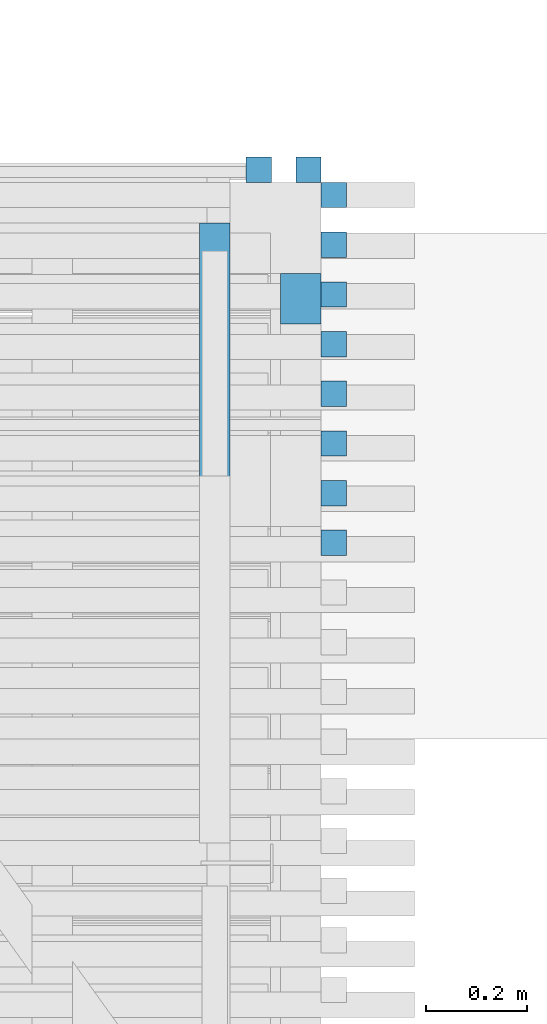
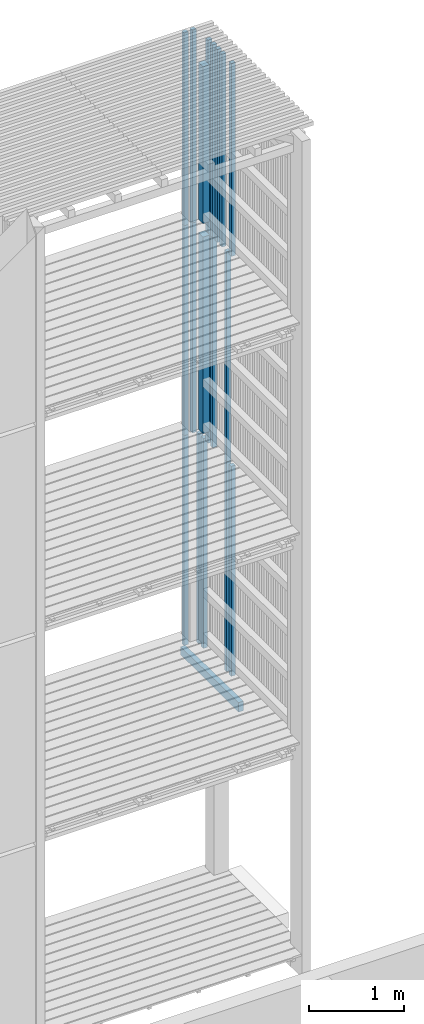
# One storey, part 132 of 182: 20 beams.
"""IFC2X3 building model written with IfcOpenShell, lengths in metres."""

from ifc_helpers import new_model, si_unit, frame, origin, place, context, project, spatial, faceted_brep, element, save


model = new_model("IFC2X3")

# Units and contexts
model_context = context("Model", 3, precision=1e-06, world=origin())
ifc_project = project(units=[si_unit("LENGTHUNIT", "METRE"), si_unit("PLANEANGLEUNIT", "RADIAN")], contexts=[model_context])

# Site, building, storey
site = spatial("IfcSite", under=ifc_project, CompositionType="ELEMENT")
building = spatial("IfcBuilding", under=site, CompositionType="ELEMENT")
storey = spatial("IfcBuildingStorey", under=building, Name="vs", CompositionType="ELEMENT", Elevation=-0.85)

# Beams
placement = place(None, origin())
beam_1_placement = place(placement, frame((56.231818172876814, 7.295077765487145, 2.575000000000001), z_axis=(0.0, -1.0, 0.0), x_axis=(0.0, 0.0, 1.0)))
element("IfcBeam", 1, at=beam_1_placement, inside=storey, Name="Bardage", context=model_context, shape_type="Brep", body=[
    faceted_brep([(2.699961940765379, -0.024999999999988, 0.025000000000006), (2.699961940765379, -0.025000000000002, -0.024999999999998), (2.699961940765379, 0.024999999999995, -0.025000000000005), (2.699961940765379, 0.025000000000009, 0.024999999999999), (0.0, -0.024999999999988, 0.025000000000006), (2.699961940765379, -0.024999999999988, 0.025000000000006), (2.699961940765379, 0.025000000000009, 0.024999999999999), (0.0, 0.025000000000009, 0.024999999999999), (0.0, -0.024999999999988, 0.025000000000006), (0.0, 0.025000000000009, 0.024999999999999), (0.0, 0.024999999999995, -0.025000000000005), (0.0, -0.025000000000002, -0.024999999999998), (0.0, -0.024999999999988, 0.025000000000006), (0.0, -0.025000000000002, -0.024999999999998), (2.699961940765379, -0.025000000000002, -0.024999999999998), (2.699961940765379, -0.024999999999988, 0.025000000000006), (0.0, -0.025000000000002, -0.024999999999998), (0.0, 0.024999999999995, -0.025000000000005), (2.699961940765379, 0.024999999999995, -0.025000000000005), (2.699961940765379, -0.025000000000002, -0.024999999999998), (0.0, 0.024999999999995, -0.025000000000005), (0.0, 0.025000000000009, 0.024999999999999), (2.699961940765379, 0.025000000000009, 0.024999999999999), (2.699961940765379, 0.024999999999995, -0.025000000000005)], [[[0, 1, 2, 3]], [[4, 5, 6, 7]], [[8, 9, 10, 11]], [[12, 13, 14, 15]], [[16, 17, 18, 19]], [[20, 21, 22, 23]]]),
])
beam_2_placement = place(placement, frame((56.37999999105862, 6.655986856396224, 2.575000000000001), z_axis=(-1.0, 0.0, 0.0), x_axis=(0.0, 0.0, 1.0)))
element("IfcBeam", 2, at=beam_2_placement, inside=storey, Name="Bardage", context=model_context, shape_type="Brep", body=[
    faceted_brep([(0.0, -0.025000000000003, 0.024999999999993), (0.0, 0.025000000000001, 0.024999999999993), (0.0, 0.025000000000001, -0.025000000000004), (0.0, -0.025000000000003, -0.025000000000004), (2.699961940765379, 0.025000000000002, -0.025000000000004), (2.699961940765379, 0.025000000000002, 0.024999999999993), (2.699961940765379, -0.024999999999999, 0.024999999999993), (2.699961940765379, -0.024999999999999, -0.025000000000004), (0.0, -0.025000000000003, -0.025000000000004), (0.0, 0.025000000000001, -0.025000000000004), (2.699961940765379, 0.025000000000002, -0.025000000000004), (2.699961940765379, -0.024999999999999, -0.025000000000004), (2.699961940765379, 0.025000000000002, -0.025000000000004), (0.0, 0.025000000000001, -0.025000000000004), (0.0, 0.025000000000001, 0.024999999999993), (2.699961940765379, 0.025000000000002, 0.024999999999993), (2.699961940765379, 0.025000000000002, 0.024999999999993), (0.0, 0.025000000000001, 0.024999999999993), (0.0, -0.025000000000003, 0.024999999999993), (2.699961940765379, -0.024999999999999, 0.024999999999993), (2.699961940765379, -0.024999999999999, 0.024999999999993), (0.0, -0.025000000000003, 0.024999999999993), (0.0, -0.025000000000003, -0.025000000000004), (2.699961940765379, -0.024999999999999, -0.025000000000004)], [[[0, 1, 2, 3]], [[4, 5, 6, 7]], [[8, 9, 10, 11]], [[12, 13, 14, 15]], [[16, 17, 18, 19]], [[20, 21, 22, 23]]]),
])
beam_3_placement = place(placement, frame((56.37999999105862, 6.950532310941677, 7.974999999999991), z_axis=(-1.0, 0.0, 0.0), x_axis=(0.0, 0.0, 1.0)))
element("IfcBeam", 3, at=beam_3_placement, inside=storey, Name="Bardage", context=model_context, shape_type="Brep", body=[
    faceted_brep([(2.479999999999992, -0.025000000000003, 0.024999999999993), (2.479999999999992, -0.025000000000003, -0.025000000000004), (2.479999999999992, 0.024999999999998, -0.025000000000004), (2.479999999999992, 0.024999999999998, 0.024999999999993), (0.0, 0.024999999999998, 0.024999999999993), (0.0, -0.025000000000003, 0.024999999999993), (2.479999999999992, -0.025000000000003, 0.024999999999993), (2.479999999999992, 0.024999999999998, 0.024999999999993), (0.0, -0.025000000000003, 0.024999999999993), (0.0, 0.024999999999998, 0.024999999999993), (0.0, 0.024999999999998, -0.025000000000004), (0.0, -0.025000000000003, -0.025000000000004), (0.0, 0.024999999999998, -0.025000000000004), (0.0, 0.024999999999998, 0.024999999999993), (2.479999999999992, 0.024999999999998, 0.024999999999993), (2.479999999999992, 0.024999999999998, -0.025000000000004), (0.0, -0.025000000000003, -0.025000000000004), (0.0, 0.024999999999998, -0.025000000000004), (2.479999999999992, 0.024999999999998, -0.025000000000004), (2.479999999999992, -0.025000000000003, -0.025000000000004), (2.479999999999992, -0.025000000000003, 0.024999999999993), (0.0, -0.025000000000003, 0.024999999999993), (0.0, -0.025000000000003, -0.025000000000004), (2.479999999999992, -0.025000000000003, -0.025000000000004)], [[[0, 1, 2, 3]], [[4, 5, 6, 7]], [[8, 9, 10, 11]], [[12, 13, 14, 15]], [[16, 17, 18, 19]], [[20, 21, 22, 23]]]),
])
beam_4_placement = place(placement, frame((56.314999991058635, 7.040077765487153, 5.446999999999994), z_axis=(0.0, -1.0, 0.0), x_axis=(0.0, 0.0, 1.0)))
element("IfcBeam", 4, at=beam_4_placement, inside=storey, Name="Support bardage", context=model_context, shape_type="Brep", body=[
    faceted_brep([(2.527999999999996, -0.039999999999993, 0.050000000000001), (2.527999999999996, -0.039999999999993, -0.05), (2.527999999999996, 0.04000000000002, -0.05), (2.527999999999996, 0.04000000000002, 0.050000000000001), (0.0, 0.04000000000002, 0.050000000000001), (0.0, -0.039999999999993, 0.050000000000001), (2.527999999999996, -0.039999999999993, 0.050000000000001), (2.527999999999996, 0.04000000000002, 0.050000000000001), (0.0, -0.039999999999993, 0.050000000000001), (0.0, 0.04000000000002, 0.050000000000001), (0.0, 0.04000000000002, -0.05), (0.0, -0.039999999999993, -0.05), (2.527999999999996, -0.039999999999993, 0.050000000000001), (0.0, -0.039999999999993, 0.050000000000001), (0.0, -0.039999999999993, -0.05), (2.527999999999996, -0.039999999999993, -0.05), (2.527999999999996, -0.039999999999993, -0.05), (0.0, -0.039999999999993, -0.05), (0.0, 0.04000000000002, -0.05), (2.527999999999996, 0.04000000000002, -0.05), (2.527999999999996, 0.04000000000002, -0.05), (0.0, 0.04000000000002, -0.05), (0.0, 0.04000000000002, 0.050000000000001), (2.527999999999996, 0.04000000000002, 0.050000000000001)], [[[0, 1, 2, 3]], [[4, 5, 6, 7]], [[8, 9, 10, 11]], [[12, 13, 14, 15]], [[16, 17, 18, 19]], [[20, 21, 22, 23]]]),
])
beam_5_placement = place(placement, frame((56.37999999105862, 6.754168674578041, 7.974999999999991), z_axis=(-1.0, 0.0, 0.0), x_axis=(0.0, 0.0, 1.0)))
element("IfcBeam", 5, at=beam_5_placement, inside=storey, Name="Bardage", context=model_context, shape_type="Brep", body=[
    faceted_brep([(2.479999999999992, -0.024999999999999, 0.024999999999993), (2.479999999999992, -0.024999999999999, -0.025000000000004), (2.479999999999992, 0.024999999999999, -0.025000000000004), (2.479999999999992, 0.024999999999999, 0.024999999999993), (0.0, 0.024999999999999, 0.024999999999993), (0.0, -0.024999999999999, 0.024999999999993), (2.479999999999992, -0.024999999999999, 0.024999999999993), (2.479999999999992, 0.024999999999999, 0.024999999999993), (0.0, -0.024999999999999, 0.024999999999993), (0.0, 0.024999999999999, 0.024999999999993), (0.0, 0.024999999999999, -0.025000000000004), (0.0, -0.024999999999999, -0.025000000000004), (0.0, 0.024999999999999, -0.025000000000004), (0.0, 0.024999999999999, 0.024999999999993), (2.479999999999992, 0.024999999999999, 0.024999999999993), (2.479999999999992, 0.024999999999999, -0.025000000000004), (0.0, -0.024999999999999, -0.025000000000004), (0.0, 0.024999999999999, -0.025000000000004), (2.479999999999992, 0.024999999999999, -0.025000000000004), (2.479999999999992, -0.024999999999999, -0.025000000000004), (2.479999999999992, -0.024999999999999, 0.024999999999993), (0.0, -0.024999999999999, 0.024999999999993), (0.0, -0.024999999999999, -0.025000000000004), (2.479999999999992, -0.024999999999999, -0.025000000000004)], [[[0, 1, 2, 3]], [[4, 5, 6, 7]], [[8, 9, 10, 11]], [[12, 13, 14, 15]], [[16, 17, 18, 19]], [[20, 21, 22, 23]]]),
])
beam_6_placement = place(placement, frame((56.37999999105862, 6.655986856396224, 5.274999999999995), z_axis=(-1.0, 0.0, 0.0), x_axis=(0.0, 0.0, 1.0)))
element("IfcBeam", 6, at=beam_6_placement, inside=storey, Name="Bardage", context=model_context, shape_type="Brep", body=[
    faceted_brep([(1e-15, -0.025000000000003, 0.024999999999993), (1e-15, 0.025000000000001, 0.024999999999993), (1e-15, 0.025000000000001, -0.025000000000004), (1e-15, -0.025000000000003, -0.025000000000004), (2.699999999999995, -0.025000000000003, -0.025000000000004), (2.699999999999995, 0.025000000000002, -0.025000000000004), (2.699999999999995, 0.025000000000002, 0.024999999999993), (2.699999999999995, -0.025000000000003, 0.024999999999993), (1e-15, -0.025000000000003, 0.024999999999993), (1e-15, -0.025000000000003, -0.025000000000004), (2.699999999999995, -0.025000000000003, -0.025000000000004), (2.699999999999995, -0.025000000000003, 0.024999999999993), (2.699999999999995, -0.025000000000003, -0.025000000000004), (1e-15, -0.025000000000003, -0.025000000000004), (1e-15, 0.025000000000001, -0.025000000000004), (2.699999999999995, 0.025000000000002, -0.025000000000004), (2.699999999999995, 0.025000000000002, -0.025000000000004), (1e-15, 0.025000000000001, -0.025000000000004), (1e-15, 0.025000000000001, 0.024999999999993), (2.699999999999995, 0.025000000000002, 0.024999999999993), (2.699999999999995, 0.025000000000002, 0.024999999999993), (1e-15, 0.025000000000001, 0.024999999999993), (1e-15, -0.025000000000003, 0.024999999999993), (2.699999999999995, -0.025000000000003, 0.024999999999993)], [[[0, 1, 2, 3]], [[4, 5, 6, 7]], [[8, 9, 10, 11]], [[12, 13, 14, 15]], [[16, 17, 18, 19]], [[20, 21, 22, 23]]]),
])
beam_7_placement = place(placement, frame((56.37999999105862, 7.048714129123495, 5.274999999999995), z_axis=(-1.0, 0.0, 0.0), x_axis=(0.0, 0.0, 1.0)))
element("IfcBeam", 7, at=beam_7_placement, inside=storey, Name="Bardage", context=model_context, shape_type="Brep", body=[
    faceted_brep([(1e-15, -0.025000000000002, 0.024999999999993), (1e-15, 0.024999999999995, 0.024999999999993), (1e-15, 0.024999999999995, -0.025000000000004), (1e-15, -0.025000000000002, -0.025000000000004), (2.699999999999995, -0.025000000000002, -0.025000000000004), (2.699999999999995, 0.024999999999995, -0.025000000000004), (2.699999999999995, 0.024999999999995, 0.024999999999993), (2.699999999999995, -0.025000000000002, 0.024999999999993), (1e-15, -0.025000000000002, 0.024999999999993), (1e-15, -0.025000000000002, -0.025000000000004), (2.699999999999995, -0.025000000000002, -0.025000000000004), (2.699999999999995, -0.025000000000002, 0.024999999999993), (2.699999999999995, -0.025000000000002, -0.025000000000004), (1e-15, -0.025000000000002, -0.025000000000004), (1e-15, 0.024999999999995, -0.025000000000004), (2.699999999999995, 0.024999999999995, -0.025000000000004), (2.699999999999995, 0.024999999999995, -0.025000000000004), (1e-15, 0.024999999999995, -0.025000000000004), (1e-15, 0.024999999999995, 0.024999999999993), (2.699999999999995, 0.024999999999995, 0.024999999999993), (2.699999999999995, 0.024999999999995, 0.024999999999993), (1e-15, 0.024999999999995, 0.024999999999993), (1e-15, -0.025000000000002, 0.024999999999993), (2.699999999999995, -0.025000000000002, 0.024999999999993)], [[[0, 1, 2, 3]], [[4, 5, 6, 7]], [[8, 9, 10, 11]], [[12, 13, 14, 15]], [[16, 17, 18, 19]], [[20, 21, 22, 23]]]),
])
beam_8_placement = place(placement, frame((56.37999999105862, 6.852350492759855, 7.974999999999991), z_axis=(-1.0, 0.0, 0.0), x_axis=(0.0, 0.0, 1.0)))
element("IfcBeam", 8, at=beam_8_placement, inside=storey, Name="Bardage", context=model_context, shape_type="Brep", body=[
    faceted_brep([(2.479999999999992, -0.024999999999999, 0.024999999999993), (2.479999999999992, -0.024999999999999, -0.025000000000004), (2.479999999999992, 0.025000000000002, -0.025000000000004), (2.479999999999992, 0.025000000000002, 0.024999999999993), (0.0, 0.025000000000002, 0.024999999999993), (0.0, -0.024999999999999, 0.024999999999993), (2.479999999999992, -0.024999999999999, 0.024999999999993), (2.479999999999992, 0.025000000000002, 0.024999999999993), (0.0, -0.024999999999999, 0.024999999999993), (0.0, 0.025000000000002, 0.024999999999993), (0.0, 0.025000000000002, -0.025000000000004), (0.0, -0.024999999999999, -0.025000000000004), (0.0, 0.025000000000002, -0.025000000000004), (0.0, 0.025000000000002, 0.024999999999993), (2.479999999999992, 0.025000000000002, 0.024999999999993), (2.479999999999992, 0.025000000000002, -0.025000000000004), (0.0, -0.024999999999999, -0.025000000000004), (0.0, 0.025000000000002, -0.025000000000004), (2.479999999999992, 0.025000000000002, -0.025000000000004), (2.479999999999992, -0.024999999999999, -0.025000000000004), (2.479999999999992, -0.024999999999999, 0.024999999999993), (0.0, -0.024999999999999, 0.024999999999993), (0.0, -0.024999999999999, -0.025000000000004), (2.479999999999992, -0.024999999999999, -0.025000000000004)], [[[0, 1, 2, 3]], [[4, 5, 6, 7]], [[8, 9, 10, 11]], [[12, 13, 14, 15]], [[16, 17, 18, 19]], [[20, 21, 22, 23]]]),
])
beam_9_placement = place(placement, frame((56.37999999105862, 6.557805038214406, 7.974999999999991), z_axis=(-1.0, 0.0, 0.0), x_axis=(0.0, 0.0, 1.0)))
element("IfcBeam", 9, at=beam_9_placement, inside=storey, Name="Bardage", context=model_context, shape_type="Brep", body=[
    faceted_brep([(2.479999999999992, -0.024999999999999, 0.024999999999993), (2.479999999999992, -0.024999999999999, -0.025000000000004), (2.479999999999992, 0.025000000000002, -0.025000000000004), (2.479999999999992, 0.025000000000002, 0.024999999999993), (0.0, 0.024999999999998, 0.024999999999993), (0.0, -0.024999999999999, 0.024999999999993), (2.479999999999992, -0.024999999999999, 0.024999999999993), (2.479999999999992, 0.025000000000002, 0.024999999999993), (0.0, -0.024999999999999, 0.024999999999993), (0.0, 0.024999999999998, 0.024999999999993), (0.0, 0.024999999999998, -0.025000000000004), (0.0, -0.024999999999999, -0.025000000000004), (0.0, 0.024999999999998, -0.025000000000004), (0.0, 0.024999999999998, 0.024999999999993), (2.479999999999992, 0.025000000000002, 0.024999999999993), (2.479999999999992, 0.025000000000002, -0.025000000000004), (0.0, -0.024999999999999, -0.025000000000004), (0.0, 0.024999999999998, -0.025000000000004), (2.479999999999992, 0.025000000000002, -0.025000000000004), (2.479999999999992, -0.024999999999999, -0.025000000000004), (2.479999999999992, -0.024999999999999, 0.024999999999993), (0.0, -0.024999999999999, 0.024999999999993), (0.0, -0.024999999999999, -0.025000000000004), (2.479999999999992, -0.024999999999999, -0.025000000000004)], [[[0, 1, 2, 3]], [[4, 5, 6, 7]], [[8, 9, 10, 11]], [[12, 13, 14, 15]], [[16, 17, 18, 19]], [[20, 21, 22, 23]]]),
])
beam_10_placement = place(placement, frame((56.37999999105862, 6.557805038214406, 2.575000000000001), z_axis=(-1.0, 0.0, 0.0), x_axis=(0.0, 0.0, 1.0)))
element("IfcBeam", 10, at=beam_10_placement, inside=storey, Name="Bardage", context=model_context, shape_type="Brep", body=[
    faceted_brep([(0.0, -0.024999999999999, 0.024999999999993), (0.0, 0.025000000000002, 0.024999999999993), (0.0, 0.025000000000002, -0.025000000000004), (0.0, -0.024999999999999, -0.025000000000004), (2.699961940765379, 0.025000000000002, -0.025000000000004), (2.699961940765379, 0.025000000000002, 0.024999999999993), (2.699961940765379, -0.024999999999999, 0.024999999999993), (2.699961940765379, -0.024999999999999, -0.025000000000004), (0.0, -0.024999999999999, -0.025000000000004), (0.0, 0.025000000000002, -0.025000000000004), (2.699961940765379, 0.025000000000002, -0.025000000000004), (2.699961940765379, -0.024999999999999, -0.025000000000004), (2.699961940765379, 0.025000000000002, -0.025000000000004), (0.0, 0.025000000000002, -0.025000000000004), (0.0, 0.025000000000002, 0.024999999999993), (2.699961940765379, 0.025000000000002, 0.024999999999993), (2.699961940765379, 0.025000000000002, 0.024999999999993), (0.0, 0.025000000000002, 0.024999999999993), (0.0, -0.024999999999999, 0.024999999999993), (2.699961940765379, -0.024999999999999, 0.024999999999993), (2.699961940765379, -0.024999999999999, 0.024999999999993), (0.0, -0.024999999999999, 0.024999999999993), (0.0, -0.024999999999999, -0.025000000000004), (2.699961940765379, -0.024999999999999, -0.025000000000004)], [[[0, 1, 2, 3]], [[4, 5, 6, 7]], [[8, 9, 10, 11]], [[12, 13, 14, 15]], [[16, 17, 18, 19]], [[20, 21, 22, 23]]]),
])
beam_11_placement = place(placement, frame((56.14499999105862, 5.965077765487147, 2.604249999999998), z_axis=(0.0, 0.0, 1.0), x_axis=(0.0, 1.0, 0.0)))
element("IfcBeam", 11, at=beam_11_placement, inside=storey, Name="Solive", context=model_context, shape_type="Brep", body=[
    faceted_brep([(0.0, -0.03, 0.06185), (0.0, -0.03, -0.06185), (1.225000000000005, -0.03, -0.06185), (1.225000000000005, -0.03, 0.03735), (0.0, -0.03, -0.06185), (0.0, -0.03, 0.06185), (0.0, 0.029999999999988, 0.06185), (0.0, 0.029999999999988, -0.06185), (1.225000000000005, -0.03, -0.06185), (0.0, -0.03, -0.06185), (0.0, 0.029999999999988, -0.06185), (1.225000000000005, 0.029999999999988, -0.06185), (1.225000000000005, 0.029999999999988, 0.03735), (1.225000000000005, 0.029999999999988, -0.06185), (0.0, 0.029999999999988, -0.06185), (0.0, 0.029999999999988, 0.06185), (1.225000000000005, -0.03, 0.03735), (1.225000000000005, -0.03, -0.06185), (1.225000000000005, 0.029999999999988, -0.06185), (1.225000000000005, 0.029999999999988, 0.03735), (1.225000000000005, -0.03, 0.03735), (1.225000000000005, 0.029999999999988, 0.03735), (0.0, 0.029999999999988, 0.06185), (0.0, -0.03, 0.06185)], [[[0, 1, 2, 3]], [[4, 5, 6, 7]], [[8, 9, 10, 11]], [[12, 13, 14, 15]], [[16, 17, 18, 19]], [[20, 21, 22, 23]]]),
])
beam_12_placement = place(placement, frame((56.314999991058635, 7.040077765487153, 8.146999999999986), z_axis=(0.0, -1.0, 0.0), x_axis=(0.0, 0.0, 1.0)))
element("IfcBeam", 12, at=beam_12_placement, inside=storey, Name="Support bardage", context=model_context, shape_type="Brep", body=[
    faceted_brep([(2.017999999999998, -0.039999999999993, -0.05), (2.017999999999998, 0.04000000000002, -0.05), (2.017999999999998, 0.04000000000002, 0.050000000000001), (2.017999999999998, -0.039999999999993, 0.050000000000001), (1e-15, -0.039999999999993, 0.050000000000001), (1e-15, 0.04000000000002, 0.050000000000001), (1e-15, 0.04000000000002, -0.05), (1e-15, -0.039999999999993, -0.05), (1e-15, -0.039999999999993, 0.050000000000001), (1e-15, -0.039999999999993, -0.05), (2.017999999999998, -0.039999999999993, -0.05), (2.017999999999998, -0.039999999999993, 0.050000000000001), (1e-15, 0.04000000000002, 0.050000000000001), (1e-15, -0.039999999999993, 0.050000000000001), (2.017999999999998, -0.039999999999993, 0.050000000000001), (2.017999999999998, 0.04000000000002, 0.050000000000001), (1e-15, 0.04000000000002, -0.05), (1e-15, 0.04000000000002, 0.050000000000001), (2.017999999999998, 0.04000000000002, 0.050000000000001), (2.017999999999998, 0.04000000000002, -0.05), (1e-15, -0.039999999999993, -0.05), (1e-15, 0.04000000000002, -0.05), (2.017999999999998, 0.04000000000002, -0.05), (2.017999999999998, -0.039999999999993, -0.05)], [[[0, 1, 2, 3]], [[4, 5, 6, 7]], [[8, 9, 10, 11]], [[12, 13, 14, 15]], [[16, 17, 18, 19]], [[20, 21, 22, 23]]]),
])
beam_13_placement = place(placement, frame((56.231818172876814, 7.295077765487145, 7.974999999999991), z_axis=(0.0, -1.0, 0.0), x_axis=(0.0, 0.0, 1.0)))
element("IfcBeam", 13, at=beam_13_placement, inside=storey, Name="Bardage", context=model_context, shape_type="Brep", body=[
    faceted_brep([(0.0, -0.024999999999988, 0.025000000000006), (0.0, 0.025000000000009, 0.024999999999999), (0.0, 0.024999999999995, -0.025000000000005), (0.0, -0.025000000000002, -0.024999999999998), (2.479999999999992, 0.024999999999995, -0.025000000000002), (2.479999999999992, 0.025000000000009, 0.024999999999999), (2.479999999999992, -0.024999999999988, 0.025000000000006), (2.479999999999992, -0.025000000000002, -0.024999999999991), (0.0, 0.025000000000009, 0.024999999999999), (0.0, -0.024999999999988, 0.025000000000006), (2.479999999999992, -0.024999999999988, 0.025000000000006), (2.479999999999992, 0.025000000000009, 0.024999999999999), (0.0, 0.024999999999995, -0.025000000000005), (0.0, 0.025000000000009, 0.024999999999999), (2.479999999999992, 0.025000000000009, 0.024999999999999), (2.479999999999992, 0.024999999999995, -0.025000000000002), (0.0, -0.025000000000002, -0.024999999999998), (0.0, 0.024999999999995, -0.025000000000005), (2.479999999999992, 0.024999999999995, -0.025000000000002), (2.479999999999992, -0.025000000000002, -0.024999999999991), (2.479999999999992, -0.024999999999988, 0.025000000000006), (0.0, -0.024999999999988, 0.025000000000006), (0.0, -0.025000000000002, -0.024999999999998), (2.479999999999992, -0.025000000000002, -0.024999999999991)], [[[0, 1, 2, 3]], [[4, 5, 6, 7]], [[8, 9, 10, 11]], [[12, 13, 14, 15]], [[16, 17, 18, 19]], [[20, 21, 22, 23]]]),
])
beam_14_placement = place(placement, frame((56.32999999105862, 7.295077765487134, 7.974999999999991), z_axis=(0.0, -1.0, 0.0), x_axis=(0.0, 0.0, 1.0)))
element("IfcBeam", 14, at=beam_14_placement, inside=storey, Name="Bardage", context=model_context, shape_type="Brep", body=[
    faceted_brep([(0.0, -0.025000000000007, 0.025000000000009), (0.0, 0.025000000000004, 0.025000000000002), (0.0, 0.02499999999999, -0.025000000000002), (0.0, -0.025000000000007, -0.024999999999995), (2.479999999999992, 0.02499999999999, -0.024999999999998), (2.479999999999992, 0.025000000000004, 0.024999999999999), (2.479999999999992, -0.025000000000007, 0.025000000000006), (2.479999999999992, -0.025000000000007, -0.024999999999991), (0.0, 0.025000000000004, 0.025000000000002), (0.0, -0.025000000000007, 0.025000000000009), (2.479999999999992, -0.025000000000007, 0.025000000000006), (2.479999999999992, 0.025000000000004, 0.024999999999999), (0.0, 0.02499999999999, -0.025000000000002), (0.0, 0.025000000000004, 0.025000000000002), (2.479999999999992, 0.025000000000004, 0.024999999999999), (2.479999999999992, 0.02499999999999, -0.024999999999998), (0.0, -0.025000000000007, -0.024999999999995), (0.0, 0.02499999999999, -0.025000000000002), (2.479999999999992, 0.02499999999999, -0.024999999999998), (2.479999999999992, -0.025000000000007, -0.024999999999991), (2.479999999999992, -0.025000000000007, 0.025000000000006), (0.0, -0.025000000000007, 0.025000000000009), (0.0, -0.025000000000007, -0.024999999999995), (2.479999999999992, -0.025000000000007, -0.024999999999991)], [[[0, 1, 2, 3]], [[4, 5, 6, 7]], [[8, 9, 10, 11]], [[12, 13, 14, 15]], [[16, 17, 18, 19]], [[20, 21, 22, 23]]]),
])
beam_15_placement = place(placement, frame((56.231818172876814, 7.295077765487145, 5.274999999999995), z_axis=(0.0, -1.0, 0.0), x_axis=(0.0, 0.0, 1.0)))
element("IfcBeam", 15, at=beam_15_placement, inside=storey, Name="Bardage", context=model_context, shape_type="Brep", body=[
    faceted_brep([(2.699999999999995, 0.025000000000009, 0.024999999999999), (2.699999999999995, -0.024999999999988, 0.025000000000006), (2.699999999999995, -0.025000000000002, -0.024999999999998), (2.699999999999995, 0.024999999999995, -0.025000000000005), (1e-15, 0.025000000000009, 0.024999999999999), (2.699999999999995, 0.025000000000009, 0.024999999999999), (2.699999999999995, 0.024999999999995, -0.025000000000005), (1e-15, 0.024999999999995, -0.025000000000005), (1e-15, -0.024999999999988, 0.025000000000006), (1e-15, 0.025000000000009, 0.024999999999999), (1e-15, 0.024999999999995, -0.025000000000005), (1e-15, -0.025000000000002, -0.024999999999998), (1e-15, 0.025000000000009, 0.024999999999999), (1e-15, -0.024999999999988, 0.025000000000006), (2.699999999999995, -0.024999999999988, 0.025000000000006), (2.699999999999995, 0.025000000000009, 0.024999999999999), (1e-15, -0.024999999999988, 0.025000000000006), (1e-15, -0.025000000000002, -0.024999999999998), (2.699999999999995, -0.025000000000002, -0.024999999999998), (2.699999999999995, -0.024999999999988, 0.025000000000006), (1e-15, -0.025000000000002, -0.024999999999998), (1e-15, 0.024999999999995, -0.025000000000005), (2.699999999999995, 0.024999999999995, -0.025000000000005), (2.699999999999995, -0.025000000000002, -0.024999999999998)], [[[0, 1, 2, 3]], [[4, 5, 6, 7]], [[8, 9, 10, 11]], [[12, 13, 14, 15]], [[16, 17, 18, 19]], [[20, 21, 22, 23]]]),
])
beam_16_placement = place(placement, frame((56.37999999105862, 7.24507776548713, 2.575000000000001), z_axis=(-1.0, 0.0, 0.0), x_axis=(0.0, 0.0, 1.0)))
element("IfcBeam", 16, at=beam_16_placement, inside=storey, Name="Bardage", context=model_context, shape_type="Brep", body=[
    faceted_brep([(0.0, -0.025000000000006, 0.024999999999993), (0.0, 0.024999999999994, 0.024999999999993), (0.0, 0.024999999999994, -0.025000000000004), (0.0, -0.025000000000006, -0.025000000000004), (2.699961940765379, 0.024999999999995, -0.025000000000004), (2.699961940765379, 0.024999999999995, 0.024999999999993), (2.699961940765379, -0.025000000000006, 0.024999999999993), (2.699961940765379, -0.025000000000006, -0.025000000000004), (0.0, -0.025000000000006, -0.025000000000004), (0.0, 0.024999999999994, -0.025000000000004), (2.699961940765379, 0.024999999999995, -0.025000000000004), (2.699961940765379, -0.025000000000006, -0.025000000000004), (2.699961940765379, 0.024999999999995, -0.025000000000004), (0.0, 0.024999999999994, -0.025000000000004), (0.0, 0.024999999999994, 0.024999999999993), (2.699961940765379, 0.024999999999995, 0.024999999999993), (2.699961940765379, 0.024999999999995, 0.024999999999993), (0.0, 0.024999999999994, 0.024999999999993), (0.0, -0.025000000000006, 0.024999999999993), (2.699961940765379, -0.025000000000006, 0.024999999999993), (2.699961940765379, -0.025000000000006, 0.024999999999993), (0.0, -0.025000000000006, 0.024999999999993), (0.0, -0.025000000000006, -0.025000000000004), (2.699961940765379, -0.025000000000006, -0.025000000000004)], [[[0, 1, 2, 3]], [[4, 5, 6, 7]], [[8, 9, 10, 11]], [[12, 13, 14, 15]], [[16, 17, 18, 19]], [[20, 21, 22, 23]]]),
])
beam_17_placement = place(placement, frame((56.37999999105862, 7.048714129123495, 7.974999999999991), z_axis=(-1.0, 0.0, 0.0), x_axis=(0.0, 0.0, 1.0)))
element("IfcBeam", 17, at=beam_17_placement, inside=storey, Name="Bardage", context=model_context, shape_type="Brep", body=[
    faceted_brep([(2.479999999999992, -0.025000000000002, 0.024999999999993), (2.479999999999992, -0.025000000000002, -0.025000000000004), (2.479999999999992, 0.024999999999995, -0.025000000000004), (2.479999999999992, 0.024999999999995, 0.024999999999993), (0.0, 0.024999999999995, 0.024999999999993), (0.0, -0.025000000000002, 0.024999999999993), (2.479999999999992, -0.025000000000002, 0.024999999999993), (2.479999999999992, 0.024999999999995, 0.024999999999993), (0.0, -0.025000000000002, 0.024999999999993), (0.0, 0.024999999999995, 0.024999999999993), (0.0, 0.024999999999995, -0.025000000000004), (0.0, -0.025000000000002, -0.025000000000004), (0.0, 0.024999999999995, -0.025000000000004), (0.0, 0.024999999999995, 0.024999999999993), (2.479999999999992, 0.024999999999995, 0.024999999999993), (2.479999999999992, 0.024999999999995, -0.025000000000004), (0.0, -0.025000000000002, -0.025000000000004), (0.0, 0.024999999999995, -0.025000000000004), (2.479999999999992, 0.024999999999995, -0.025000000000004), (2.479999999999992, -0.025000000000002, -0.025000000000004), (2.479999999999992, -0.025000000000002, 0.024999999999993), (0.0, -0.025000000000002, 0.024999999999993), (0.0, -0.025000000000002, -0.025000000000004), (2.479999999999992, -0.025000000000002, -0.025000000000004)], [[[0, 1, 2, 3]], [[4, 5, 6, 7]], [[8, 9, 10, 11]], [[12, 13, 14, 15]], [[16, 17, 18, 19]], [[20, 21, 22, 23]]]),
])
beam_18_placement = place(placement, frame((56.37999999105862, 6.950532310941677, 5.274999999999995), z_axis=(-1.0, 0.0, 0.0), x_axis=(0.0, 0.0, 1.0)))
element("IfcBeam", 18, at=beam_18_placement, inside=storey, Name="Bardage", context=model_context, shape_type="Brep", body=[
    faceted_brep([(1e-15, -0.025000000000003, 0.024999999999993), (1e-15, 0.024999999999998, 0.024999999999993), (1e-15, 0.024999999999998, -0.025000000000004), (1e-15, -0.025000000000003, -0.025000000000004), (2.699999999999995, -0.025000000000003, -0.025000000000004), (2.699999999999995, 0.024999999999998, -0.025000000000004), (2.699999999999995, 0.024999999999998, 0.024999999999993), (2.699999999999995, -0.025000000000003, 0.024999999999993), (1e-15, -0.025000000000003, 0.024999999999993), (1e-15, -0.025000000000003, -0.025000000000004), (2.699999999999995, -0.025000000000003, -0.025000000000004), (2.699999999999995, -0.025000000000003, 0.024999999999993), (2.699999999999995, -0.025000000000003, -0.025000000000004), (1e-15, -0.025000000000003, -0.025000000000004), (1e-15, 0.024999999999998, -0.025000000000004), (2.699999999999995, 0.024999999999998, -0.025000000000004), (2.699999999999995, 0.024999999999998, -0.025000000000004), (1e-15, 0.024999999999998, -0.025000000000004), (1e-15, 0.024999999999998, 0.024999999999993), (2.699999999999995, 0.024999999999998, 0.024999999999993), (2.699999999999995, 0.024999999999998, 0.024999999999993), (1e-15, 0.024999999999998, 0.024999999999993), (1e-15, -0.025000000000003, 0.024999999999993), (2.699999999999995, -0.025000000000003, 0.024999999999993)], [[[0, 1, 2, 3]], [[4, 5, 6, 7]], [[8, 9, 10, 11]], [[12, 13, 14, 15]], [[16, 17, 18, 19]], [[20, 21, 22, 23]]]),
])
beam_19_placement = place(placement, frame((56.37999999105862, 7.146895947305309, 2.575000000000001), z_axis=(-1.0, 0.0, 0.0), x_axis=(0.0, 0.0, 1.0)))
element("IfcBeam", 19, at=beam_19_placement, inside=storey, Name="Bardage", context=model_context, shape_type="Brep", body=[
    faceted_brep([(0.0, -0.025000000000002, 0.024999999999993), (0.0, 0.024999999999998, 0.024999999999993), (0.0, 0.024999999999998, -0.025000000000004), (0.0, -0.025000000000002, -0.025000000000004), (2.699961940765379, 0.025000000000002, -0.025000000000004), (2.699961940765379, 0.025000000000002, 0.024999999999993), (2.699961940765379, -0.025000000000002, 0.024999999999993), (2.699961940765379, -0.025000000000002, -0.025000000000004), (0.0, -0.025000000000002, -0.025000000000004), (0.0, 0.024999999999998, -0.025000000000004), (2.699961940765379, 0.025000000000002, -0.025000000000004), (2.699961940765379, -0.025000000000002, -0.025000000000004), (2.699961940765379, 0.025000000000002, -0.025000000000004), (0.0, 0.024999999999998, -0.025000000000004), (0.0, 0.024999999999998, 0.024999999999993), (2.699961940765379, 0.025000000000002, 0.024999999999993), (2.699961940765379, 0.025000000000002, 0.024999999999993), (0.0, 0.024999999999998, 0.024999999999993), (0.0, -0.025000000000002, 0.024999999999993), (2.699961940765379, -0.025000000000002, 0.024999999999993), (2.699961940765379, -0.025000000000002, 0.024999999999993), (0.0, -0.025000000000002, 0.024999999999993), (0.0, -0.025000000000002, -0.025000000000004), (2.699961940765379, -0.025000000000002, -0.025000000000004)], [[[0, 1, 2, 3]], [[4, 5, 6, 7]], [[8, 9, 10, 11]], [[12, 13, 14, 15]], [[16, 17, 18, 19]], [[20, 21, 22, 23]]]),
])
beam_20_placement = place(placement, frame((56.32999999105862, 7.295077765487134, 5.274999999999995), z_axis=(0.0, -1.0, 0.0), x_axis=(0.0, 0.0, 1.0)))
element("IfcBeam", 20, at=beam_20_placement, inside=storey, Name="Bardage", context=model_context, shape_type="Brep", body=[
    faceted_brep([(2.699999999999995, 0.025000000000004, 0.025000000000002), (2.699999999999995, -0.025000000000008, 0.025000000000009), (2.699999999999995, -0.025000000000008, -0.024999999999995), (2.699999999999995, 0.02499999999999, -0.025000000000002), (1e-15, 0.025000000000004, 0.025000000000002), (2.699999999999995, 0.025000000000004, 0.025000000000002), (2.699999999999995, 0.02499999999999, -0.025000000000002), (1e-15, 0.02499999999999, -0.025000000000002), (1e-15, -0.025000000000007, 0.025000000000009), (1e-15, 0.025000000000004, 0.025000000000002), (1e-15, 0.02499999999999, -0.025000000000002), (1e-15, -0.025000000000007, -0.024999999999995), (1e-15, 0.025000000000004, 0.025000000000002), (1e-15, -0.025000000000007, 0.025000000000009), (2.699999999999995, -0.025000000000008, 0.025000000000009), (2.699999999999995, 0.025000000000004, 0.025000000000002), (1e-15, -0.025000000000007, 0.025000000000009), (1e-15, -0.025000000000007, -0.024999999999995), (2.699999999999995, -0.025000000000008, -0.024999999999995), (2.699999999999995, -0.025000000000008, 0.025000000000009), (1e-15, -0.025000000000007, -0.024999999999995), (1e-15, 0.02499999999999, -0.025000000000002), (2.699999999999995, 0.02499999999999, -0.025000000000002), (2.699999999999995, -0.025000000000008, -0.024999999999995)], [[[0, 1, 2, 3]], [[4, 5, 6, 7]], [[8, 9, 10, 11]], [[12, 13, 14, 15]], [[16, 17, 18, 19]], [[20, 21, 22, 23]]]),
])

save(model, "model.ifc")
